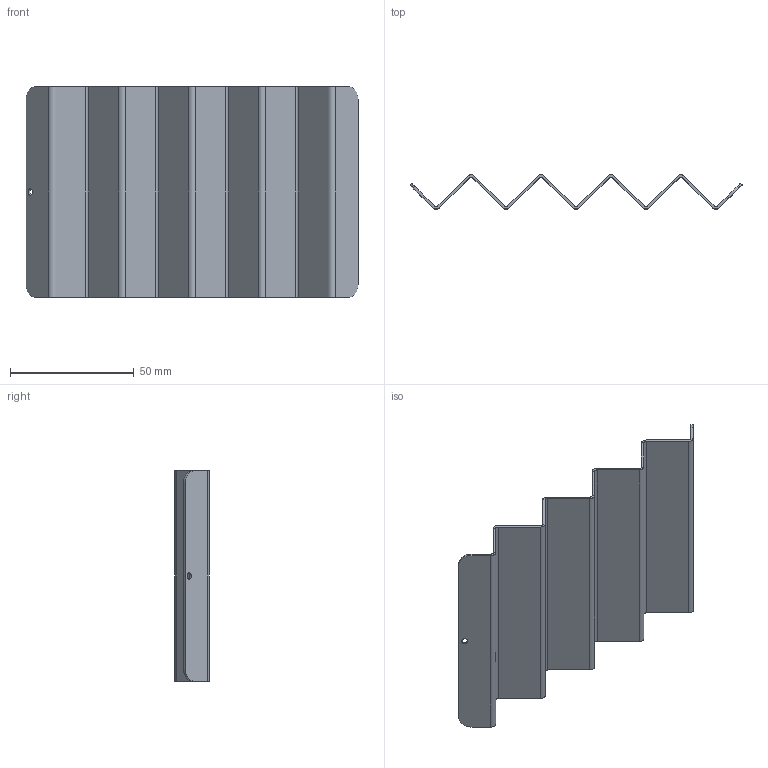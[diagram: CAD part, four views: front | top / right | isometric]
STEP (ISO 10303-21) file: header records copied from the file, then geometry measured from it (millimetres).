
FILE_DESCRIPTION (( 'STEP AP203' ), '1' );
FILE_NAME ('Mydelniczka VIW.STEP', '2022-07-13T07:22:03', ( '' ), ( '' ), 'SwSTEP 2.0', 'SolidWorks 2021', '' );
FILE_SCHEMA (( 'CONFIG_CONTROL_DESIGN' ));
Length unit declared in the file: millimetre
Products named in the file (1): Mydelniczka VIW
Bounding box: 134.35 x 13.88 x 85 mm (x, y, z)
Volume: 15546.1 mm3; surface area: 31627.9 mm2
Topology: 1 solids, 1 shells, 84 faces, 174 edges, 92 vertices
Faces by surface type: plane 60, cylinder 24
Entity records: 2211 total; most frequent: DIRECTION 392, CARTESIAN_POINT 351, ORIENTED_EDGE 348, EDGE_CURVE 174, AXIS2_PLACEMENT_3D 133, VECTOR 126, LINE 126, VERTEX_POINT 92
